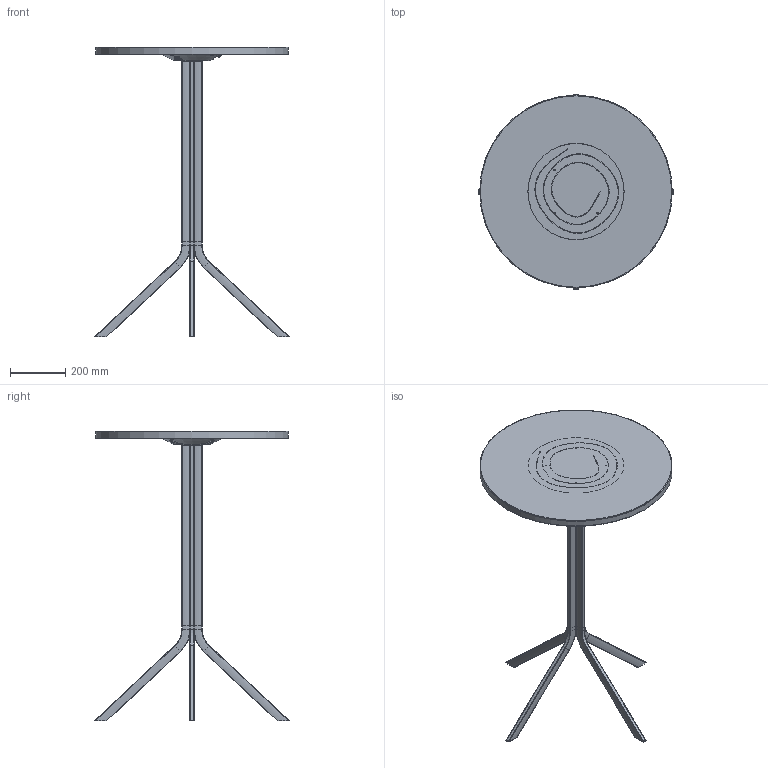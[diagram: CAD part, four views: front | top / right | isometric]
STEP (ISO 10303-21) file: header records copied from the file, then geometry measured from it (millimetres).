
FILE_DESCRIPTION(('STEP AP203'),'1');
FILE_NAME('OKTV20FXX + OKTO10FXX.stp','2024-07-01T12:28:36',(' '),(' '),'Spatial InterOp 3D',' ',' ');
FILE_SCHEMA(('CONFIG_CONTROL_DESIGN'));
Length unit declared in the file: millimetre
Products named in the file (26): OKTO10FXX; Parte MAF 3; OKTO00P90 - PER LAMIERA; 80UT15HR22FXX; Assieme MAF 2; MECCANISMO; 21; 20; 19; 18; 17; 16; 15; 14; 13; 12; 11; 10; 2; 1; 20OKGT20F00; ASSEM1; _OKTV21FXX; 90OKPS10F00
Assembly tree (28 placements, depth 4):
  Assieme MAF 2
    OKTO10FXX
      Parte MAF 3
      OKTO00P90 - PER LAMIERA
      80UT15HR22FXX
    MECCANISMO
      21
      20
      19
      18
      17
      16
      15
      14
      13
      12
      11
      10
      2
      1
    _OKTV21FXX
      20OKGT20F00  x4
        ASSEM1
        (unnamed)
        20OKGT20F00
      90OKPS10F00
Bounding box: 708.17 x 708.17 x 1051.61 mm (x, y, z)
Volume: 2847988.1 mm3; surface area: 2087314.9 mm2
Topology: 22 solids, 22 shells, 3585 faces, 8654 edges, 5110 vertices
Faces by surface type: plane 1232, bspline 1005, cylinder 708, torus 288, cone 155, sphere 96, extrusion 80, offset 13, revolution 8
Full cylindrical faces by diameter (mm): 4.2 x4, 4.5 x1, 4.8 x1, 5.12 x1, 5.5 x3, 5.6 x2, 5.601 x1, 6 x4, 6.8 x2, 8 x19, 8.1 x2, 8.5 x2, 9 x1, 9.6 x1, 10 x1, 11 x3, 14 x3, 15.532 x2, 20 x1, 69.6 x1, 350 x1, 696 x1, 700 x1
Entity records: 232521 total; most frequent: CARTESIAN_POINT 160626, ORIENTED_EDGE 15564, DIRECTION 12791, EDGE_CURVE 7782, AXIS2_PLACEMENT_3D 4814, VERTEX_POINT 4790, EDGE_LOOP 3785, FACE_OUTER_BOUND 3501
